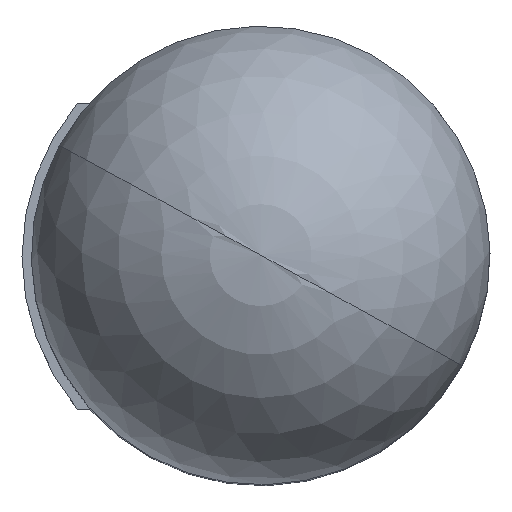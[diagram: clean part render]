
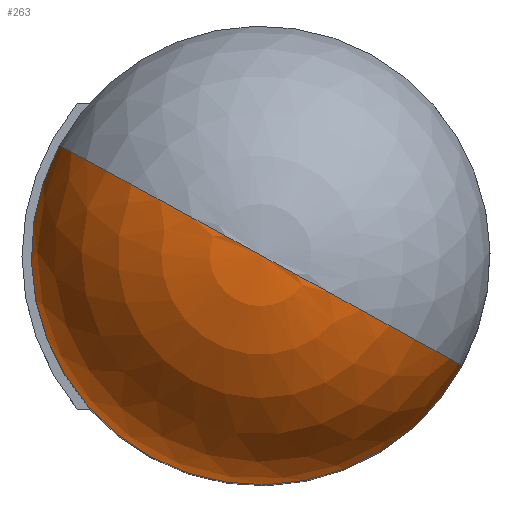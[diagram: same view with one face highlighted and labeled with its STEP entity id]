
A CAD part, top view. The second image highlights one B-rep face of the part: STEP entity #263.
In plain terms, the highlighted spherical face has radius 2.45 mm.
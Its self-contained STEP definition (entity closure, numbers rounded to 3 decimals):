
#232=CARTESIAN_POINT('Axis2P3D Location',(0.,0.,6.2)) ;
#237=CARTESIAN_POINT('Axis2P3D Location',(0.,0.,6.2)) ;
#241=CARTESIAN_POINT('Vertex',(0.,0.,8.65)) ;
#243=CARTESIAN_POINT('Vertex',(-2.15,1.175,6.2)) ;
#246=CARTESIAN_POINT('Axis2P3D Location',(0.,0.,6.2)) ;
#250=CARTESIAN_POINT('Vertex',(2.15,-1.175,6.2)) ;
#253=CARTESIAN_POINT('Axis2P3D Location',(0.,0.,6.2)) ;
#233=DIRECTION('Axis2P3D Direction',(0.,0.,-1.)) ;
#234=DIRECTION('Axis2P3D XDirection',(-0.878,0.479,0.)) ;
#238=DIRECTION('Axis2P3D Direction',(-0.479,-0.878,-0.)) ;
#247=DIRECTION('Axis2P3D Direction',(0.,0.,-1.)) ;
#254=DIRECTION('Axis2P3D Direction',(0.479,0.878,0.)) ;
#235=AXIS2_PLACEMENT_3D('Sphere Axis2P3D',#232,#233,#234) ;
#239=AXIS2_PLACEMENT_3D('Circle Axis2P3D',#237,#238,$) ;
#248=AXIS2_PLACEMENT_3D('Circle Axis2P3D',#246,#247,$) ;
#255=AXIS2_PLACEMENT_3D('Circle Axis2P3D',#253,#254,$) ;
#259=ORIENTED_EDGE('',*,*,#245,.T.) ;
#260=ORIENTED_EDGE('',*,*,#252,.F.) ;
#261=ORIENTED_EDGE('',*,*,#257,.F.) ;
#263=ADVANCED_FACE('Body.2',(#262),#236,.T.) ;
#240=CIRCLE('generated circle',#239,2.45) ;
#249=CIRCLE('generated circle',#248,2.45) ;
#256=CIRCLE('generated circle',#255,2.45) ;
#245=EDGE_CURVE('',#242,#244,#240,.T.) ;
#252=EDGE_CURVE('',#251,#244,#249,.T.) ;
#257=EDGE_CURVE('',#242,#251,#256,.T.) ;
#258=EDGE_LOOP('',(#259,#260,#261)) ;
#262=FACE_OUTER_BOUND('',#258,.T.) ;
#236=SPHERICAL_SURFACE('',#235,2.45) ;
#242=VERTEX_POINT('',#241) ;
#244=VERTEX_POINT('',#243) ;
#251=VERTEX_POINT('',#250) ;
